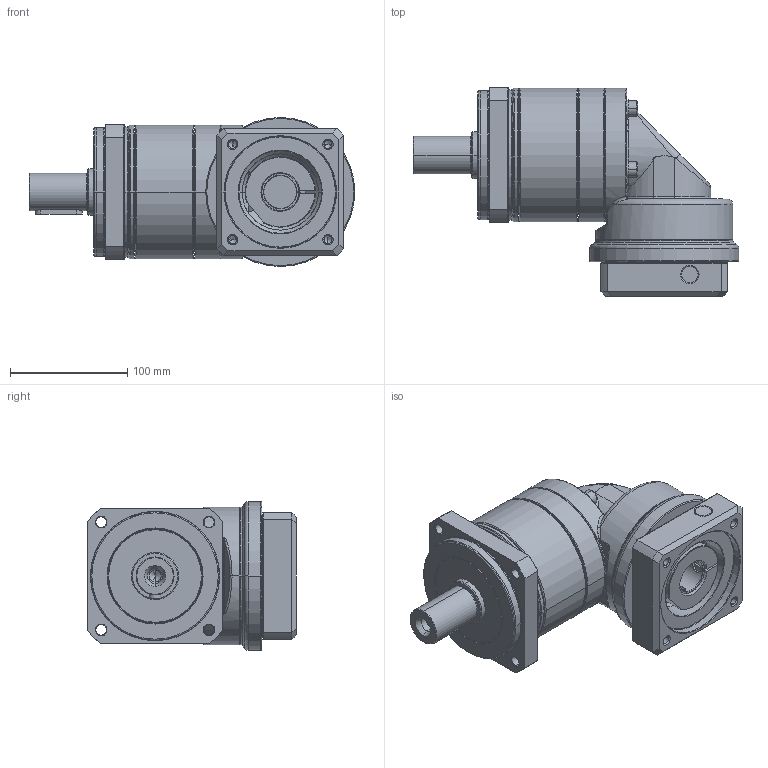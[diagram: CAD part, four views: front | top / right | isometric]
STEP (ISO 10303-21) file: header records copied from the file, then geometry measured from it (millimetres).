
FILE_DESCRIPTION((''),'2;1');
FILE_NAME('PA2R-115_1ST_28-P0411600101_ASM','2016-05-12T',('d01943'),(''),'PRO/ENGINEER BY PARAMETRIC TECHNOLOGY CORPORATION, 2008410','PRO/ENGINEER BY PARAMETRIC TECHNOLOGY CORPORATION, 2008410','');
FILE_SCHEMA(('CONFIG_CONTROL_DESIGN'));
Length unit declared in the file: millimetre
Products named in the file (12): P1327410001; P0250400001; P0350400601; P1349400001; P1017400001; P0713402001; P0503600008; P1350400201; P0411600101; P1702500001; 2111B108035; PA2R-115_1ST_28-P0411600101_ASM
Assembly tree (14 placements, depth 2):
  PA2R-115_1ST_28-P0411600101_ASM
    P1327410001
    P0250400001
    P0350400601
    P1349400001
    P1017400001
    P0713402001
    P0503600008
    P1350400201
    P0411600101
    P1702500001
    2111B108035  x4
Bounding box: 277.5 x 178 x 127 mm (x, y, z)
Volume: 1658038.5 mm3; surface area: 333931.9 mm2
Topology: 14 solids, 14 shells, 723 faces, 1596 edges, 922 vertices
Faces by surface type: cylinder 212, cone 210, plane 167, torus 102, bspline 32
Entity records: 22983 total; most frequent: CARTESIAN_POINT 9002, DIRECTION 3082, ORIENTED_EDGE 2716, EDGE_CURVE 1358, AXIS2_PLACEMENT_3D 1297, VERTEX_POINT 802, EDGE_LOOP 704, CIRCLE 679
